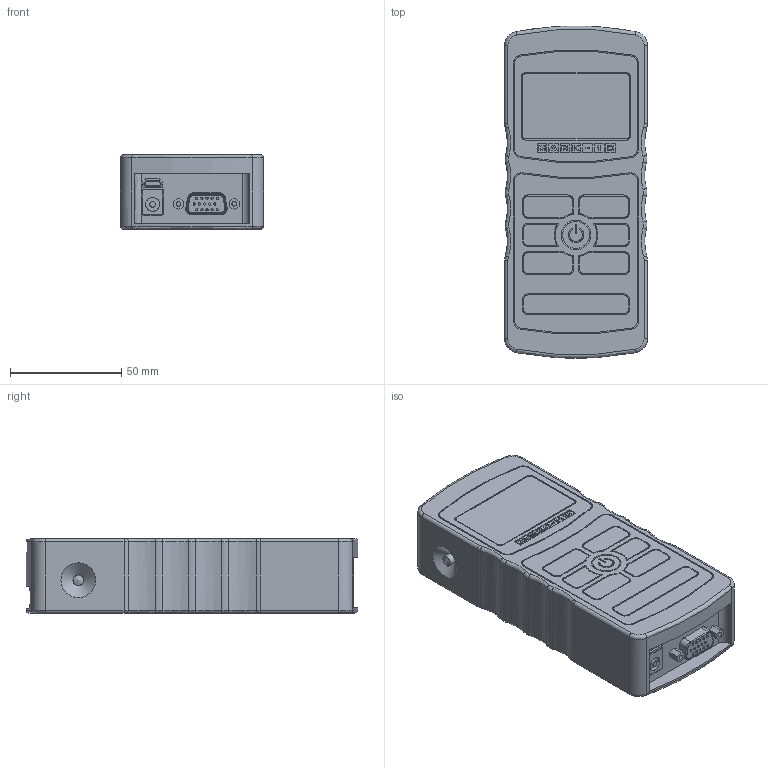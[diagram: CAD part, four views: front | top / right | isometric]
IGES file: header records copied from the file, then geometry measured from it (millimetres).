
Global section: file name: M7I; native system: Autodesk RealDWG; preprocessor: Autodesk Translation Framework DWG producer (atf_dwg_producer); organization: unknown; date: 20240326.164112; units: inch
Bounding box: 64.26 x 149.16 x 33.64 mm (x, y, z)
Volume: 291507.1 mm3; surface area: 39962.4 mm2
Topology: 1 solids, 4 shells, 665 faces, 1652 edges, 1080 vertices
Faces by surface type: bspline 665
